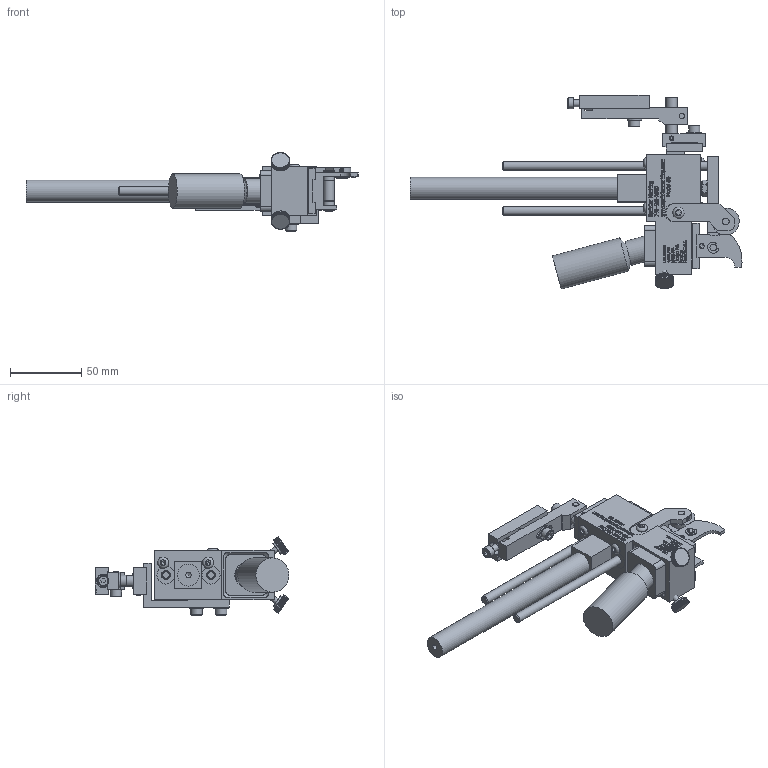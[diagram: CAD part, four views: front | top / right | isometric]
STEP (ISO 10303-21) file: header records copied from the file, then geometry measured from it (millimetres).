
FILE_DESCRIPTION((''),'2;1');
FILE_NAME('C:\Documents and Settings\Ron\My Documents\Inventor\Sprinter Drawing\Machines in Inventor\Model 88\Type\Ext Str\E2\Brkt\Ret\Model 88 ES 2 ret w brkt mod 2012.stp','2012-03-16T13:57:54',('Ron'),(''),'Autodesk Inventor 2011','Autodesk Inventor 2011','');
FILE_SCHEMA(('AUTOMOTIVE_DESIGN { 1 0 10303 214 1 1 1 1 }'));
Length unit declared in the file: inch
Products named in the file (44): Model 88  ES 2  ret w brkt mod 2012; 88 Frame Body; 66 Linear Bearing; Hexagon Socket Button Head Cap Screw - Inch 8 - 32 x 1/4; Hexagon Socket Head Cap Screw - Inch No. 8 - 32 UNC - 1 1/2; 10 Ink Resevior Lock Screw; INK RESERVOIR ASSY; 88 RESERVOIR; 88 Ink Pad; 66 INK BOTTLE; 88 STD Wheel Bractet Assy (prototype); 44 Wheel Retainer; 44 Cam Wheel; 88 Wheel Bracket Arm (prototype); Hexagon Socket Set Screw - Flat Point - Inch 4-48 UNF x 0.19; 8-32x0.25 Hexagon Socket Button Head Cap Screw ANSI/ASME B18.3; E2 Retracted; 88 Rod Carrier Retracted ES 2; 88 Rod Carrier; Type A - Hexagon Socket Set Screw - Cup Point - Inch 8-32 UNC x 0.32; 66 PIVOT SHAFT; 66 PIVOT SHAFT LOCKING RING; 23 66 invert block; AS 1112 (4)  - Metric M6; 66 Spring; 19 Rod Carrier Set Screws; 88 CLIP FOR MODELS(2); 88--CLIP plate; Hexagon Socket Set Screw - Flat Point - Inch 6-32 UNC x 0.45; 88 baselock (model sized); 88 baselock STAMP; E2; Model 88 RPB; rpb4; rpb3; rpb-1; rpb2; No. 10-24x0.88 Hexagon socket head cap screw ANSI/ASME B18.3; Type B - Plain Washer (Inch) No. 10 - narrow - Type B; 66 Machine Mounting Pivot Bracket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
Assembly tree (59 placements, depth 4):
  Model 88  ES 2  ret w brkt mod 2012
    88 Frame Body
    66 Linear Bearing  x2
    Hexagon Socket Button Head Cap Screw - Inch 8 - 32 x 1/4  x4
    Hexagon Socket Head Cap Screw - Inch No. 8 - 32 UNC - 1 1/2  x2
    10 Ink Resevior Lock Screw  x2
    INK RESERVOIR ASSY
      88 RESERVOIR
      88 Ink Pad
      66 INK BOTTLE
    88 STD Wheel Bractet Assy (prototype)
      44 Wheel Retainer
      44 Cam Wheel
      88 Wheel Bracket Arm (prototype)
      Hexagon Socket Set Screw - Flat Point - Inch 4-48 UNF x 0.19
    8-32x0.25 Hexagon Socket Button Head Cap Screw ANSI/ASME B18.3
    E2 Retracted
    88 Rod Carrier Retracted ES 2
      88 Rod Carrier
      Type A - Hexagon Socket Set Screw - Cup Point - Inch 8-32 UNC x 0.32
      66 PIVOT SHAFT
      66 PIVOT SHAFT LOCKING RING  x2
      23 66 invert block
      AS 1112 (4)  - Metric M6
      66 Spring
      19 Rod Carrier Set Screws  x2
      88 CLIP FOR MODELS(2)
        88--CLIP plate
        Hexagon Socket Set Screw - Flat Point - Inch 6-32 UNC x 0.45
        88 baselock (model sized)
        88 baselock STAMP
      E2  x2
    Model 88 RPB
      rpb4
      rpb3
      rpb-1
      rpb2
      No. 10-24x0.88 Hexagon socket head cap screw ANSI/ASME B18.3  x5
      Type B - Plain Washer (Inch) No. 10 - narrow - Type B  x4
      66 Machine Mounting Pivot Bracket
      Pin - Hardened Ground Machine Dowel (Inch) 1/8 x 3/4
      Pin - Hardened Ground Machine Dowel (Inch) 1/8 x 3/8
    Hexagon Socket Set Screw - Flat Point - Inch 8-32 UNC x 0.32
    10-32 PORTS DECAL
Bounding box: 233.76 x 136.58 x 55.4 mm (x, y, z)
Volume: 210840.6 mm3; surface area: 100467.1 mm2
Topology: 427 solids, 427 shells, 6413 faces, 15720 edges, 9736 vertices
Faces by surface type: plane 4465, bspline 1294, cylinder 561, cone 70, torus 23
Full cylindrical faces by diameter (mm): 1.143 x1, 2.261 x1, 2.54 x2, 2.642 x1, 2.845 x1, 3.175 x4, 3.2 x1, 3.302 x14, 3.505 x1, 3.556 x1, 3.683 x2, 3.962 x10, 4.064 x2, 4.166 x11, 4.547 x2, 4.699 x3, 4.75 x4, 4.775 x2, 4.826 x8, 4.864 x2, 4.917 x1, 5.055 x1, 5.156 x7, 5.359 x1, 5.556 x1, 6.223 x2, 6.325 x4, 6.35 x5, 6.426 x1, 6.604 x1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
Entity records: 152765 total; most frequent: CARTESIAN_POINT 45406, ORIENTED_EDGE 23888, DIRECTION 17284, EDGE_CURVE 11944, VECTOR 8532, LINE 8532, VERTEX_POINT 7674, EDGE_LOOP 5354
